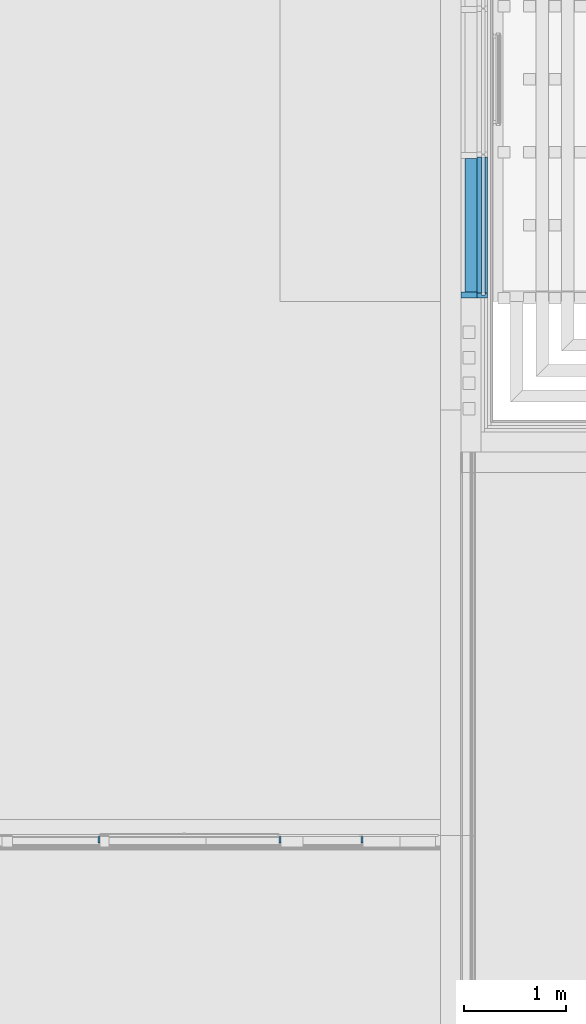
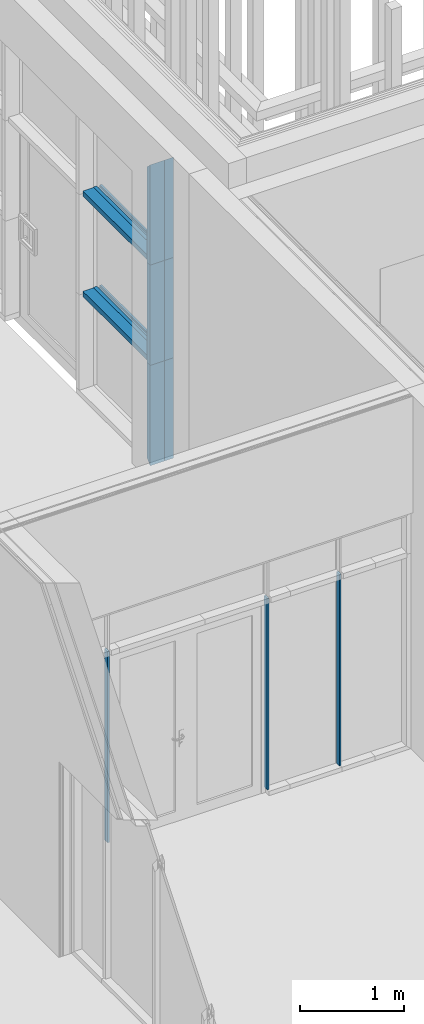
# One storey, part 29 of 260: 13 members, 3 elements without a shape of their own.
"""IFC2X3 building model written with IfcOpenShell, lengths in millimetres."""

from ifc_helpers import new_model, entity, si_unit, converted_unit, derived_unit, money_unit, direction, frame, origin_with_axes, place, context, subcontext, project, spatial, faceted_brep, source, transform, mapped, material, type_object, element, aggregate, save


model = new_model("IFC2X3")

# Units and contexts
model_context = context("Model", 3, precision=0.01, world=origin_with_axes(), true_north=direction((0.0, 1.0)))
body_context = subcontext(model_context, "Body", "Model", "MODEL_VIEW")
ifc_project = project(units=[si_unit("LENGTHUNIT", "METRE", prefix="MILLI"), si_unit("AREAUNIT", "SQUARE_METRE"), si_unit("VOLUMEUNIT", "CUBIC_METRE"), converted_unit("PLANEANGLEUNIT", "DEGREE", entity("IfcPlaneAngleMeasure", 0.0174532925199), si_unit("PLANEANGLEUNIT", "RADIAN"), dimensions=[0, 0, 0, 0, 0, 0, 0]), money_unit("EUR"), converted_unit("TIMEUNIT", "Year", entity("IfcTimeMeasure", 31556926.0), si_unit("TIMEUNIT", "SECOND"), dimensions=[0, 0, 1, 0, 0, 0, 0]), si_unit("MASSUNIT", "GRAM", prefix="KILO"), si_unit("THERMODYNAMICTEMPERATUREUNIT", "DEGREE_CELSIUS"), si_unit("LUMINOUSINTENSITYUNIT", "LUMEN"), si_unit("ENERGYUNIT", "JOULE", prefix="MEGA"), derived_unit("THERMALCONDUCTANCEUNIT", [(si_unit("POWERUNIT", "WATT"), 1), (si_unit("LENGTHUNIT", "METRE"), -1), (si_unit("THERMODYNAMICTEMPERATUREUNIT", "KELVIN"), -1)]), derived_unit("SPECIFICHEATCAPACITYUNIT", [(si_unit("ENERGYUNIT", "JOULE"), 1), (si_unit("MASSUNIT", "GRAM", prefix="KILO"), -1), (si_unit("THERMODYNAMICTEMPERATUREUNIT", "KELVIN"), -1)]), derived_unit("MASSDENSITYUNIT", [(si_unit("MASSUNIT", "GRAM", prefix="KILO"), 1), (si_unit("VOLUMEUNIT", "CUBIC_METRE"), -1)])], contexts=[model_context])

# Site, building, storey
site_placement = place(None, origin_with_axes())
site = spatial("IfcSite", under=ifc_project, at=site_placement, Name="Kolde pst 67a", CompositionType="ELEMENT")
building_placement = place(site_placement, origin_with_axes())
building = spatial("IfcBuilding", under=site, at=building_placement, Name="Riigigümnaasium", CompositionType="ELEMENT")
storey_placement = place(building_placement, origin_with_axes())
storey = spatial("IfcBuildingStorey", under=building, at=storey_placement, Name="1. korrus", CompositionType="ELEMENT", Elevation=0.0)

# Curtain wall, members
curtain_wall_type = type_object("IfcCurtainWallType", Name="Curtain Wall Type", PredefinedType="NOTDEFINED")
curtain_wall_1_placement = place(storey_placement, frame((36659.99923, 65497.2568144, -5.3341346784e-05), z_axis=(0.0, 0.0, 1.0), x_axis=(1.0, 0.0, 0.0)))
curtain_wall_1 = element("IfcCurtainWall", 1, at=curtain_wall_1_placement, inside=storey, type_object=curtain_wall_type, Name="KLAASFASSAAD")
ifc_material_1 = material(Name="_METALL - alumiinium")
member_type_1 = type_object("IfcMemberType", Name="Boundary Frame 50 x 100", PredefinedType="MEMBER")
shared_shape_1 = source(origin_with_axes(), body_context, "Body", "Brep", [
    faceted_brep([(-30.0, -16.5, 1180.00018269), (-50.0, -16.5, 1180.00018269), (-50.0, -60.0, 1180.00018269), (0.0, -60.0, 1180.00018269), (0.0, 40.0, 1180.00018269), (-50.0, 40.0, 1180.00018269), (-50.0, 16.5, 1180.00018269), (-30.0, 16.5, 1180.00018269), (-30.0, -16.5, 30.0), (-50.0, -16.5, 50.0), (-50.0, -60.0, 50.0), (0.0, -60.0, 0.0), (0.0, 40.0, 0.0), (-50.0, 40.0, 50.0), (-50.0, 16.5, 50.0), (-30.0, 16.5, 30.0)], [[[0, 1, 2, 3, 4, 5, 6, 7]], [[0, 8, 9, 1]], [[9, 10, 2, 1]], [[2, 10, 11, 3]], [[3, 11, 12, 4]], [[4, 12, 13, 5]], [[6, 5, 13, 14]], [[14, 15, 7, 6]], [[7, 15, 8, 0]], [[8, 15, 14, 13, 12, 11, 10, 9]]]),
])
member_1_placement = place(curtain_wall_1_placement, frame((0.0, -3546.06187973, 0.0), z_axis=(0.0, 0.0, 1.0), x_axis=(0.0, 1.0, 0.0)))
member_1 = element("IfcMember", 2, at=member_1_placement, type_object=member_type_1, material=ifc_material_1, Name="RF RAAM SERV-755", ObjectType="MEMBER", context=body_context, shape_type="MappedRepresentation", body=[
    mapped(shared_shape_1, transform((0.0, 0.0, 0.0), x_axis=(-1.0, 0.0, 0.0), y_axis=(0.0, -1.0, 0.0), z_axis=(0.0, 0.0, 1.0))),
])
shared_shape_2 = source(origin_with_axes(), body_context, "Body", "Brep", [
    faceted_brep([(-30.0, -16.5, 1150.00005334), (-50.0, -16.5, 1130.00005334), (-50.0, -60.0, 1130.00005334), (0.0, -60.0, 1180.00005334), (0.0, 40.0, 1180.00005334), (-50.0, 40.0, 1130.00005334), (-50.0, 16.5, 1130.00005334), (-30.0, 16.5, 1150.00005334), (-30.0, -16.5, 0.0), (-50.0, -16.5, 0.0), (-50.0, -60.0, 0.0), (0.0, -60.0, 0.0), (0.0, 40.0, 0.0), (-50.0, 40.0, 0.0), (-50.0, 16.5, 0.0), (-30.0, 16.5, 0.0)], [[[0, 1, 2, 3, 4, 5, 6, 7]], [[0, 8, 9, 1]], [[9, 10, 2, 1]], [[10, 11, 3, 2]], [[11, 12, 4, 3]], [[12, 13, 5, 4]], [[6, 5, 13, 14]], [[14, 15, 7, 6]], [[7, 15, 8, 0]], [[8, 15, 14, 13, 12, 11, 10, 9]]]),
])
member_2_placement = place(curtain_wall_1_placement, frame((0.0, -3546.06187973, 2360.00005334), z_axis=(0.0, 0.0, 1.0), x_axis=(0.0, 1.0, 0.0)))
member_2 = element("IfcMember", 3, at=member_2_placement, type_object=member_type_1, material=ifc_material_1, Name="RF RAAM SERV-757", ObjectType="MEMBER", context=body_context, shape_type="MappedRepresentation", body=[
    mapped(shared_shape_2, transform((0.0, 0.0, 0.0), x_axis=(-1.0, 0.0, 0.0), y_axis=(0.0, -1.0, 0.0), z_axis=(0.0, 0.0, 1.0))),
])
shared_shape_3 = source(origin_with_axes(), body_context, "Body", "Brep", [
    faceted_brep([(-30.0, -16.5, 1180.0), (-50.0, -16.5, 1180.0), (-50.0, -60.0, 1180.0), (0.0, -60.0, 1180.0), (0.0, 40.0, 1180.0), (-50.0, 40.0, 1180.0), (-50.0, 16.5, 1180.0), (-30.0, 16.5, 1180.0), (-30.0, -16.5, 0.0), (-50.0, -16.5, 0.0), (-50.0, -60.0, 0.0), (0.0, -60.0, 0.0), (0.0, 40.0, 0.0), (-50.0, 40.0, 0.0), (-50.0, 16.5, 0.0), (-30.0, 16.5, 0.0)], [[[0, 1, 2, 3, 4, 5, 6, 7]], [[0, 8, 9, 1]], [[9, 10, 2, 1]], [[10, 11, 3, 2]], [[11, 12, 4, 3]], [[12, 13, 5, 4]], [[6, 5, 13, 14]], [[14, 15, 7, 6]], [[7, 15, 8, 0]], [[8, 15, 14, 13, 12, 11, 10, 9]]]),
])
member_3_placement = place(curtain_wall_1_placement, frame((0.0, -3546.06187973, 1180.00005334), z_axis=(0.0, 0.0, 1.0), x_axis=(0.0, 1.0, 0.0)))
member_3 = element("IfcMember", 4, at=member_3_placement, type_object=member_type_1, material=ifc_material_1, Name="RF RAAM SERV-756", ObjectType="MEMBER", context=body_context, shape_type="MappedRepresentation", body=[
    mapped(shared_shape_3, transform((0.0, 0.0, 0.0), x_axis=(-1.0, 0.0, 0.0), y_axis=(0.0, -1.0, 0.0), z_axis=(0.0, 0.0, 1.0))),
])
member_type_2 = type_object("IfcMemberType", Name="Transom Frame 50 x 100", PredefinedType="MEMBER")
shared_shape_4 = source(origin_with_axes(), body_context, "Body", "Brep", [
    faceted_brep([(5.0, -16.5, 1355.83848383), (5.0, 16.5, 1355.83848383), (25.0, 16.5, 1355.83848383), (25.0, 40.0, 1355.83848383), (-25.0, 40.0, 1355.83848383), (-25.0, 16.5, 1355.83848383), (-5.0, 16.5, 1355.83848383), (-5.0, -16.5, 1355.83848383), (-25.0, -16.5, 1355.83848383), (-25.0, -60.0, 1355.83848383), (25.0, -60.0, 1355.83848383), (25.0, -16.5, 1355.83848383), (5.0, -16.5, 25.0), (5.0, 16.5, 25.0), (25.0, 16.5, 25.0), (25.0, 40.0, 25.0), (-25.0, 40.0, 25.0), (-25.0, 16.5, 25.0), (-5.0, 16.5, 25.0), (-5.0, -16.5, 25.0), (-25.0, -16.5, 25.0), (-25.0, -60.0, 25.0), (25.0, -60.0, 25.0), (25.0, -16.5, 25.0)], [[[0, 1, 2, 3, 4, 5, 6, 7, 8, 9, 10, 11]], [[0, 12, 13, 1]], [[1, 13, 14, 2]], [[14, 15, 3, 2]], [[4, 3, 15, 16]], [[17, 5, 4, 16]], [[5, 17, 18, 6]], [[7, 6, 18, 19]], [[8, 7, 19, 20]], [[8, 20, 21, 9]], [[10, 9, 21, 22]], [[11, 10, 22, 23]], [[11, 23, 12, 0]], [[13, 12, 23, 22, 21, 20, 19, 18, 17, 16, 15, 14]]]),
])
member_4_placement = place(curtain_wall_1_placement, frame((0.0, -2140.2233959, 2360.00005334), z_axis=(0.0, -1.0, 0.0), x_axis=(0.0, 0.0, 1.0)))
member_4 = element("IfcMember", 5, at=member_4_placement, type_object=member_type_2, material=ifc_material_1, Name="RF RAAM HOR-404", ObjectType="MEMBER", context=body_context, shape_type="MappedRepresentation", body=[
    mapped(shared_shape_4, transform((0.0, 0.0, 0.0), x_axis=(-1.0, 0.0, 0.0), y_axis=(0.0, -1.0, 0.0), z_axis=(0.0, 0.0, 1.0))),
])
member_5_placement = place(curtain_wall_1_placement, frame((0.0, -2140.2233959, 1180.00005334), z_axis=(0.0, -1.0, 0.0), x_axis=(0.0, 0.0, 1.0)))
member_5 = element("IfcMember", 6, at=member_5_placement, type_object=member_type_2, material=ifc_material_1, Name="RF RAAM HOR-404", ObjectType="MEMBER", context=body_context, shape_type="MappedRepresentation", body=[
    mapped(shared_shape_4, transform((0.0, 0.0, 0.0), x_axis=(-1.0, 0.0, 0.0), y_axis=(0.0, -1.0, 0.0), z_axis=(0.0, 0.0, 1.0))),
])
aggregate(curtain_wall_1, [member_2, member_4, member_3, member_5, member_1])

curtain_wall_2_placement = place(storey_placement, frame((32274.8343542, 56679.9979478, 0.0), z_axis=(0.0, 0.0, 1.0), x_axis=(1.0, 0.0, 0.0)))
curtain_wall_2 = element("IfcCurtainWall", 7, at=curtain_wall_2_placement, inside=storey, type_object=curtain_wall_type, Name="KLAASSEIN")
ifc_material_2 = material(Name="_GENEERILINE MATERJAL")
member_type_3 = type_object("IfcMemberType", Name="Mullion Frame 20 x 70", PredefinedType="MEMBER")
shared_shape_5 = source(origin_with_axes(), body_context, "Body", "Brep", [
    faceted_brep([(0.0, -10.0, 50.0), (-10.0, -10.0, 50.0), (-10.0, -10.0, 2300.00000002), (0.0, -10.0, 2300.00000002), (10.0, -10.0, 2300.00000002), (10.0, -10.0, 50.0), (10.0, -70.0, 50.0), (-10.0, -70.0, 50.0), (-10.0, -70.0, 2300.00000002), (10.0, -70.0, 2300.00000002)], [[[0, 1, 2, 3, 4, 5]], [[5, 6, 7, 1, 0]], [[2, 1, 7, 8]], [[3, 2, 8, 9, 4]], [[4, 9, 6, 5]], [[9, 8, 7, 6]]]),
])
member_6_placement = place(curtain_wall_2_placement, frame((617.166211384, 0.0, 0.0), z_axis=(0.0, 0.0, 1.0), x_axis=(-1.0, 0.0, 0.0)))
member_6 = element("IfcMember", 8, at=member_6_placement, type_object=member_type_3, material=ifc_material_2, Name="RF RAAM VERT-332", ObjectType="MEMBER", context=body_context, shape_type="MappedRepresentation", body=[
    mapped(shared_shape_5, transform((0.0, 0.0, 0.0), x_axis=(-1.0, 0.0, 0.0), y_axis=(0.0, -1.0, 0.0), z_axis=(0.0, 0.0, 1.0))),
])
member_7_placement = place(curtain_wall_2_placement, frame((2394.22500466, 0.0, 0.0), z_axis=(0.0, 0.0, 1.0), x_axis=(-1.0, 0.0, 0.0)))
member_7 = element("IfcMember", 9, at=member_7_placement, type_object=member_type_3, material=ifc_material_2, Name="RF RAAM VERT-333", ObjectType="MEMBER", context=body_context, shape_type="MappedRepresentation", body=[
    mapped(shared_shape_5, transform((0.0, 0.0, 0.0), x_axis=(-1.0, 0.0, 0.0), y_axis=(0.0, -1.0, 0.0), z_axis=(0.0, 0.0, 1.0))),
])
member_8_placement = place(curtain_wall_2_placement, frame((3197.20572557, 0.0, 0.0), z_axis=(0.0, 0.0, 1.0), x_axis=(-1.0, 0.0, 0.0)))
member_8 = element("IfcMember", 10, at=member_8_placement, type_object=member_type_3, material=ifc_material_2, Name="RF RAAM VERT-346", ObjectType="MEMBER", context=body_context, shape_type="MappedRepresentation", body=[
    mapped(shared_shape_5, transform((0.0, 0.0, 0.0), x_axis=(-1.0, 0.0, 0.0), y_axis=(0.0, -1.0, 0.0), z_axis=(0.0, 0.0, 1.0))),
])
aggregate(curtain_wall_2, [member_6, member_7, member_8])

curtain_wall_3_placement = place(storey_placement, frame((36599.99923, 65492.6817221, -5.3341346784e-05), z_axis=(0.0, 0.0, 1.0), x_axis=(1.0, 0.0, 0.0)))
curtain_wall_3 = element("IfcCurtainWall", 11, at=curtain_wall_3_placement, inside=storey, type_object=curtain_wall_type, Name="Klaasfassaadi puitkarkass")
ifc_material_3 = material(Name="_KANDETARIND - liimpuit vastavalt EK osale")
member_type_4 = type_object("IfcMemberType", Name="Boundary Frame 60 x 160", PredefinedType="MEMBER")
shared_shape_6 = source(origin_with_axes(), body_context, "Body", "Brep", [
    faceted_brep([(-60.0, -160.0, 0.0), (-60.0, -160.0, 1180.0), (-60.0, 0.0, 1180.0), (-60.0, 0.0, 0.0), (0.0, -160.0, 0.0), (0.0, -160.0, 1180.0), (0.0, 0.0, 1180.0), (0.0, 0.0, 0.0)], [[[0, 1, 2, 3]], [[4, 5, 1, 0]], [[1, 5, 6, 2]], [[3, 2, 6, 7]], [[0, 3, 7, 4]], [[7, 6, 5, 4]]]),
])
member_9_placement = place(curtain_wall_3_placement, frame((0.0, -3541.4868018, 1180.00005334), z_axis=(0.0, 0.0, 1.0), x_axis=(0.0, 1.0, 0.0)))
member_9 = element("IfcMember", 12, at=member_9_placement, type_object=member_type_4, material=ifc_material_3, Name="RF RAAM SERV-642", ObjectType="MEMBER", context=body_context, shape_type="MappedRepresentation", body=[
    mapped(shared_shape_6, transform((0.0, 0.0, 0.0), x_axis=(-1.0, 0.0, 0.0), y_axis=(0.0, -1.0, 0.0), z_axis=(0.0, 0.0, 1.0))),
])
member_type_5 = type_object("IfcMemberType", Name="Transom Frame 60 x 120", PredefinedType="MEMBER")
shared_shape_7 = source(origin_with_axes(), body_context, "Body", "Brep", [
    faceted_brep([(-30.0, 0.0, 30.0), (-30.0, -120.0, 30.0), (-30.0, -120.0, 1336.68832865), (-30.0, 0.0, 1336.68832865), (30.0, 0.0, 30.0), (30.0, -120.0, 30.0), (30.0, -120.0, 1336.68832865), (30.0, 0.0, 1336.68832865)], [[[0, 1, 2, 3]], [[1, 0, 4, 5]], [[1, 5, 6, 2]], [[2, 6, 7, 3]], [[4, 0, 3, 7]], [[5, 4, 7, 6]]]),
])
member_10_placement = place(curtain_wall_3_placement, frame((0.0, -2144.79847315, 1180.00005334), z_axis=(0.0, -1.0, 0.0), x_axis=(0.0, 0.0, 1.0)))
member_10 = element("IfcMember", 13, at=member_10_placement, type_object=member_type_5, material=ifc_material_3, Name="RF RAAM HOR-364", ObjectType="MEMBER", context=body_context, shape_type="MappedRepresentation", body=[
    mapped(shared_shape_7, transform((0.0, 0.0, 0.0), x_axis=(-1.0, 0.0, 0.0), y_axis=(0.0, -1.0, 0.0), z_axis=(0.0, 0.0, 1.0))),
])
member_11_placement = place(curtain_wall_3_placement, frame((0.0, -2144.79847315, 2360.00005334), z_axis=(0.0, -1.0, 0.0), x_axis=(0.0, 0.0, 1.0)))
member_11 = element("IfcMember", 14, at=member_11_placement, type_object=member_type_5, material=ifc_material_3, Name="RF RAAM HOR-363", ObjectType="MEMBER", context=body_context, shape_type="MappedRepresentation", body=[
    mapped(shared_shape_7, transform((0.0, 0.0, 0.0), x_axis=(-1.0, 0.0, 0.0), y_axis=(0.0, -1.0, 0.0), z_axis=(0.0, 0.0, 1.0))),
])
shared_shape_8 = source(origin_with_axes(), body_context, "Body", "Brep", [
    faceted_brep([(-60.0, 0.0, 60.0), (-60.0, -160.0, 60.0), (-60.0, -160.0, 1180.00005334), (-60.0, 0.0, 1180.00005334), (0.0, 0.0, 0.0), (0.0, -160.0, 0.0), (0.0, -160.0, 1180.00005334), (0.0, 0.0, 1180.00005334)], [[[0, 1, 2, 3]], [[1, 0, 4, 5]], [[1, 5, 6, 2]], [[2, 6, 7, 3]], [[4, 0, 3, 7]], [[5, 4, 7, 6]]]),
])
member_12_placement = place(curtain_wall_3_placement, frame((0.0, -3541.4868018, 0.0), z_axis=(0.0, 0.0, 1.0), x_axis=(0.0, 1.0, 0.0)))
member_12 = element("IfcMember", 15, at=member_12_placement, type_object=member_type_4, material=ifc_material_3, Name="RF RAAM SERV-641", ObjectType="MEMBER", context=body_context, shape_type="MappedRepresentation", body=[
    mapped(shared_shape_8, transform((0.0, 0.0, 0.0), x_axis=(-1.0, 0.0, 0.0), y_axis=(0.0, -1.0, 0.0), z_axis=(0.0, 0.0, 1.0))),
])
shared_shape_9 = source(origin_with_axes(), body_context, "Body", "Brep", [
    faceted_brep([(-60.0, -160.0, 0.0), (-60.0, -160.0, 1120.00005334), (-60.0, 0.0, 1120.00005334), (-60.0, 0.0, 0.0), (0.0, -160.0, 0.0), (0.0, -160.0, 1180.00005334), (0.0, 0.0, 1180.00005334), (0.0, 0.0, 0.0)], [[[0, 1, 2, 3]], [[4, 5, 1, 0]], [[1, 5, 6, 2]], [[3, 2, 6, 7]], [[0, 3, 7, 4]], [[7, 6, 5, 4]]]),
])
member_13_placement = place(curtain_wall_3_placement, frame((0.0, -3541.4868018, 2360.00005334), z_axis=(0.0, 0.0, 1.0), x_axis=(0.0, 1.0, 0.0)))
member_13 = element("IfcMember", 16, at=member_13_placement, type_object=member_type_4, material=ifc_material_3, Name="RF RAAM SERV-643", ObjectType="MEMBER", context=body_context, shape_type="MappedRepresentation", body=[
    mapped(shared_shape_9, transform((0.0, 0.0, 0.0), x_axis=(-1.0, 0.0, 0.0), y_axis=(0.0, -1.0, 0.0), z_axis=(0.0, 0.0, 1.0))),
])
aggregate(curtain_wall_3, [member_9, member_10, member_11, member_12, member_13])

save(model, "model.ifc")
